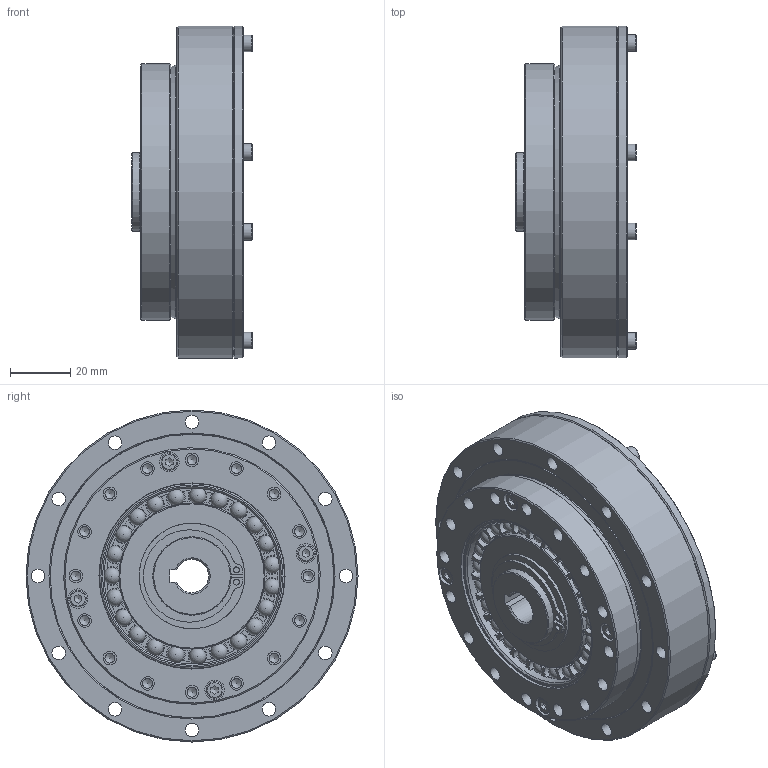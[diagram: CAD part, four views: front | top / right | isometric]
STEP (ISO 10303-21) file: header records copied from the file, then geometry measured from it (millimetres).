
FILE_DESCRIPTION(/* description */ (''),/* implementation_level */ '2;1');
FILE_NAME(/* name */ '\\Hiwin.tw\dfs\TB00F\研發課二組\\X2\6A5F5BC67D1A\X0\\1.設計\01-DT\DT-圖面\2.\X2\7D4454085716\X0\\模型\DGH-PO\DGH-25-PO\DGH-25-XX-PO_v2.stp',/* time_stamp */ '2024-09-27T14:25:34+08:00',/* author */ ('chiayu.chen'),/* organization */ (''),/* preprocessor_version */ 'ST-DEVELOPER v15.2',/* originating_system */ 'Autodesk Inventor 2014',/* authorisation */ '');
FILE_SCHEMA (('AUTOMOTIVE_DESIGN { 1 0 10303 214 3 1 1 }'));
Length unit declared in the file: centimetre
Products named in the file (1): AK000ZX1
Bounding box: 40 x 110 x 110 mm (x, y, z)
Volume: 200717 mm3; surface area: 47678 mm2
Topology: 1 solids, 17 shells, 506 faces, 1214 edges, 775 vertices
Faces by surface type: cylinder 196, plane 167, torus 65, cone 55, sphere 23
Full cylindrical faces by diameter (mm): 2 x2, 2.459 x8, 3 x8, 3.242 x16, 3.5 x8, 4.5 x28, 5.5 x8, 6.5 x4, 24.9 x1, 26 x1, 35 x1, 43 x1, 48.385 x1, 58.32 x1, 61.34 x1, 61.39 x1, 84 x1, 85 x1, 88 x1, 94 x1, 110 x2
Entity records: 13113 total; most frequent: DIRECTION 2458, CARTESIAN_POINT 2123, ORIENTED_EDGE 1852, AXIS2_PLACEMENT_3D 1123, EDGE_CURVE 880, EDGE_LOOP 772, VERTEX_POINT 632, CIRCLE 616
